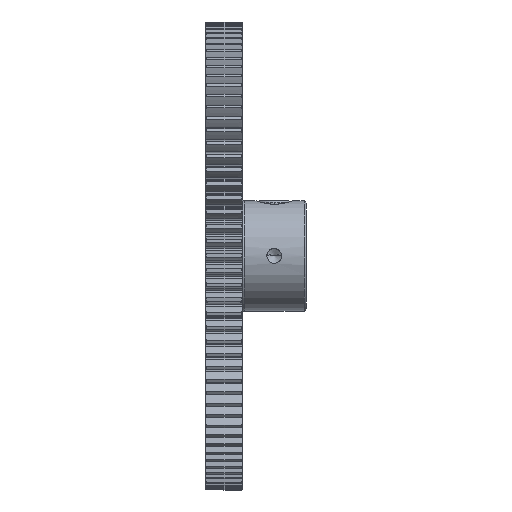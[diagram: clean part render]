
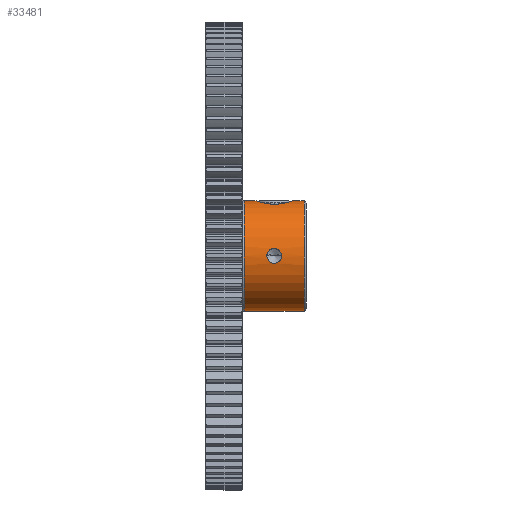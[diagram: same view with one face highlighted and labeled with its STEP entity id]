
A CAD part, top view. The second image highlights one B-rep face of the part: STEP entity #33481.
In plain terms, the highlighted cylindrical face has radius 4.763 mm (diameter 9.525 mm), a partial arc.
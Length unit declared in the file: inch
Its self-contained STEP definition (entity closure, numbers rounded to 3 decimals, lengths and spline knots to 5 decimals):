
#14636=CARTESIAN_POINT('',(0.06952,0.,0.));
#14637=DIRECTION('',(1.,0.,0.));
#14638=DIRECTION('',(0.,1.,0.));
#14639=AXIS2_PLACEMENT_3D('',#14636,#14637,#14638);
#14641=CARTESIAN_POINT('',(0.27348,0.,0.));
#14642=DIRECTION('',(1.,0.,0.));
#14643=DIRECTION('',(0.,1.,0.));
#14644=AXIS2_PLACEMENT_3D('',#14641,#14642,#14643);
#14646=CARTESIAN_POINT('',(0.1961,0.,0.1875));
#14647=CARTESIAN_POINT('',(0.1961,-0.00268,0.1875));
#14648=CARTESIAN_POINT('',(0.19531,-0.00778,
0.18739));
#14649=CARTESIAN_POINT('',(0.1915,-0.01521,
0.18692));
#14650=CARTESIAN_POINT('',(0.18573,-0.02079,
0.18636));
#14651=CARTESIAN_POINT('',(0.17847,-0.02432,
0.18592));
#14652=CARTESIAN_POINT('',(0.17095,-0.02534,
0.18578));
#14653=CARTESIAN_POINT('',(0.16422,-0.02433,
0.18592));
#14654=CARTESIAN_POINT('',(0.15833,-0.02181,
0.18624));
#14655=CARTESIAN_POINT('',(0.15321,-0.01786,
0.18667));
#14656=CARTESIAN_POINT('',(0.14916,-0.0126,
0.18711));
#14657=CARTESIAN_POINT('',(0.14662,-0.0063,
0.18743));
#14658=CARTESIAN_POINT('',(0.1461,-0.00214,0.1875));
#14659=CARTESIAN_POINT('',(0.1461,0.,0.1875));
#14661=CARTESIAN_POINT('',(0.1461,0.,0.1875));
#14662=CARTESIAN_POINT('',(0.1461,0.0027,0.1875));
#14663=CARTESIAN_POINT('',(0.1469,0.00783,
0.18739));
#14664=CARTESIAN_POINT('',(0.15076,0.01529,
0.18692));
#14665=CARTESIAN_POINT('',(0.15659,0.02088,
0.18635));
#14666=CARTESIAN_POINT('',(0.16391,0.02437,
0.18591));
#14667=CARTESIAN_POINT('',(0.17143,0.02533,
0.18578));
#14668=CARTESIAN_POINT('',(0.17812,0.02428,
0.18592));
#14669=CARTESIAN_POINT('',(0.18397,0.02175,
0.18624));
#14670=CARTESIAN_POINT('',(0.18906,0.01779,
0.18667));
#14671=CARTESIAN_POINT('',(0.19308,0.01254,
0.18711));
#14672=CARTESIAN_POINT('',(0.19559,0.00627,
0.18743));
#14673=CARTESIAN_POINT('',(0.1961,0.00212,0.1875));
#14674=CARTESIAN_POINT('',(0.1961,0.,0.1875));
#14676=CARTESIAN_POINT('',(0.2331,0.1875,
0.));
#14677=CARTESIAN_POINT('',(0.2331,0.1875,
0.00523));
#14678=CARTESIAN_POINT('',(0.2319,0.18707,
0.01544));
#14679=CARTESIAN_POINT('',(0.22641,0.18521,
0.03039));
#14680=CARTESIAN_POINT('',(0.21746,0.18252,
0.04351));
#14681=CARTESIAN_POINT('',(0.20583,0.17968,
0.05382));
#14682=CARTESIAN_POINT('',(0.19248,0.17741,
0.06076));
#14683=CARTESIAN_POINT('',(0.17829,0.17617,
0.06419));
#14684=CARTESIAN_POINT('',(0.1639,0.17617,
0.06419));
#14685=CARTESIAN_POINT('',(0.14972,0.17741,
0.06076));
#14686=CARTESIAN_POINT('',(0.13636,0.17969,
0.05381));
#14687=CARTESIAN_POINT('',(0.12473,0.18252,
0.0435));
#14688=CARTESIAN_POINT('',(0.11579,0.18521,
0.03039));
#14689=CARTESIAN_POINT('',(0.1103,0.18707,
0.01546));
#14690=CARTESIAN_POINT('',(0.1091,0.1875,
0.00524));
#14691=CARTESIAN_POINT('',(0.1091,0.1875,
0.));
#14717=CARTESIAN_POINT('',(0.1091,0.1875,
0.));
#14732=CARTESIAN_POINT('',(0.2331,0.1875,
0.));
#14758=DIRECTION('',(-1.,0.,0.));
#14759=VECTOR('',#14758,0.03958);
#14760=CARTESIAN_POINT('',(0.1091,0.1875,
0.));
#14761=LINE('',#14760,#14759);
#14762=DIRECTION('',(-1.,0.,0.));
#14763=VECTOR('',#14762,0.20395);
#14764=CARTESIAN_POINT('',(0.27348,-0.1875,0.));
#14765=LINE('',#14764,#14763);
#14771=DIRECTION('',(-1.,0.,0.));
#14772=VECTOR('',#14771,0.04038);
#14773=CARTESIAN_POINT('',(0.27348,0.1875,0.));
#14774=LINE('',#14773,#14772);
#17772=CARTESIAN_POINT('',(0.27348,0.1875,0.));
#17774=VERTEX_POINT('',#17772);
#17776=CARTESIAN_POINT('',(0.27348,-0.1875,0.));
#17778=VERTEX_POINT('',#17776);
#17783=CARTESIAN_POINT('',(0.06952,-0.1875,0.));
#17784=CARTESIAN_POINT('',(0.06952,0.1875,0.));
#17785=VERTEX_POINT('',#17783);
#17786=VERTEX_POINT('',#17784);
#17789=VERTEX_POINT('',#14717);
#17790=VERTEX_POINT('',#14732);
#17799=VERTEX_POINT('',#14646);
#17800=VERTEX_POINT('',#14659);
#33457=CARTESIAN_POINT('',(-0.01403,0.,0.));
#33458=DIRECTION('',(1.,0.,0.));
#33459=DIRECTION('',(0.,-1.,0.));
#33460=AXIS2_PLACEMENT_3D('',#33457,#33458,#33459);
#33461=CYLINDRICAL_SURFACE('',#33460,0.1875);
#33463=ORIENTED_EDGE('',*,*,#33462,.F.);
#33465=ORIENTED_EDGE('',*,*,#33464,.F.);
#33467=ORIENTED_EDGE('',*,*,#33466,.T.);
#33469=ORIENTED_EDGE('',*,*,#33468,.T.);
#33470=ORIENTED_EDGE('',*,*,#33451,.F.);
#33472=ORIENTED_EDGE('',*,*,#33471,.F.);
#33473=EDGE_LOOP('',(#33463,#33465,#33467,#33469,#33470,#33472));
#33474=FACE_OUTER_BOUND('',#33473,.F.);
#33476=ORIENTED_EDGE('',*,*,#33475,.F.);
#33478=ORIENTED_EDGE('',*,*,#33477,.F.);
#33479=EDGE_LOOP('',(#33476,#33478));
#33480=FACE_BOUND('',#33479,.F.);
#33481=ADVANCED_FACE('',(#33474,#33480),#33461,.T.);
#14640=CIRCLE('',#14639,0.1875);
#14645=CIRCLE('',#14644,0.1875);
#14660=B_SPLINE_CURVE_WITH_KNOTS('',3,(#14646,#14647,#14648,#14649,#14650,
#14651,#14652,#14653,#14654,#14655,#14656,#14657,#14658,#14659),.UNSPECIFIED.,
.F.,.F.,(4,1,1,1,1,1,1,1,1,1,1,4),(0.,0.09091,0.18182,
0.27273,0.36364,0.45455,0.54545,
0.63636,0.72727,0.81818,0.90909,1.),
.UNSPECIFIED.);
#14675=B_SPLINE_CURVE_WITH_KNOTS('',3,(#14661,#14662,#14663,#14664,#14665,
#14666,#14667,#14668,#14669,#14670,#14671,#14672,#14673,#14674),.UNSPECIFIED.,
.F.,.F.,(4,1,1,1,1,1,1,1,1,1,1,4),(0.,0.09091,0.18182,
0.27273,0.36364,0.45455,0.54545,
0.63636,0.72727,0.81818,0.90909,1.),
.UNSPECIFIED.);
#14692=B_SPLINE_CURVE_WITH_KNOTS('',3,(#14676,#14677,#14678,#14679,#14680,
#14681,#14682,#14683,#14684,#14685,#14686,#14687,#14688,#14689,#14690,#14691),
.UNSPECIFIED.,.F.,.F.,(4,1,1,1,1,1,1,1,1,1,1,1,1,4),(0.,0.07692,
0.15385,0.23077,0.30769,0.38462,
0.46154,0.53846,0.61538,0.69231,
0.76923,0.84615,0.92308,1.),.UNSPECIFIED.);
#33451=EDGE_CURVE('',#17786,#17785,#14640,.T.);
#33462=EDGE_CURVE('',#17790,#17789,#14692,.T.);
#33464=EDGE_CURVE('',#17774,#17790,#14774,.T.);
#33466=EDGE_CURVE('',#17774,#17778,#14645,.T.);
#33468=EDGE_CURVE('',#17778,#17785,#14765,.T.);
#33471=EDGE_CURVE('',#17789,#17786,#14761,.T.);
#33475=EDGE_CURVE('',#17799,#17800,#14660,.T.);
#33477=EDGE_CURVE('',#17800,#17799,#14675,.T.);
